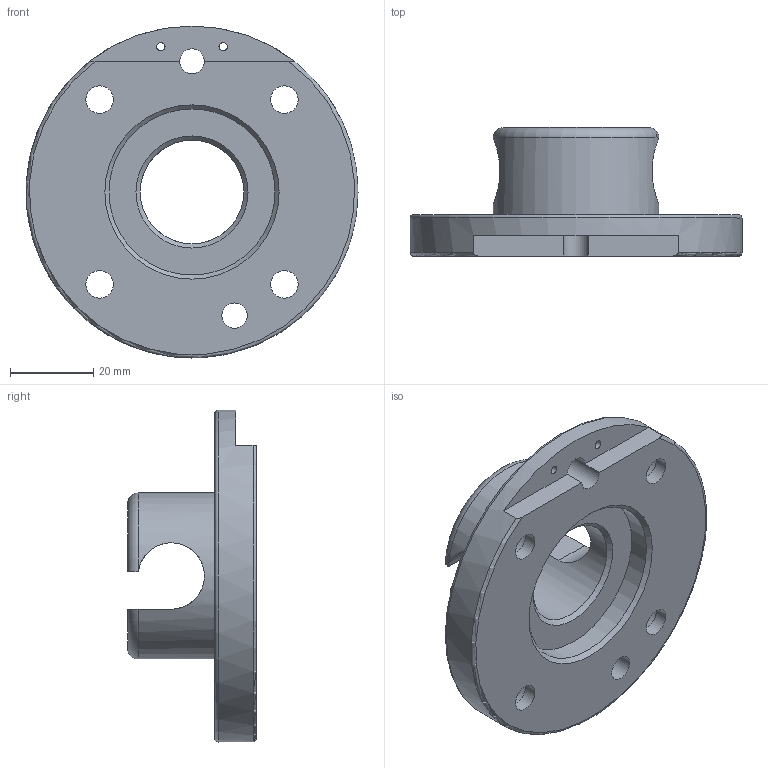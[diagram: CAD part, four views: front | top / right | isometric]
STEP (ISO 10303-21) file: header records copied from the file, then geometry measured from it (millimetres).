
FILE_DESCRIPTION(/* description */ (''),/* implementation_level */ '2;1');
FILE_NAME(/* name */ 'G-MGW080-2UEN.stp',/* time_stamp */ '2023-11-08T09:58:44+01:00',/* author */ ('ysplieth'),/* organization */ (''),/* preprocessor_version */ 'ST-DEVELOPER v20',/* originating_system */ 'Autodesk Inventor 2024',/* authorisation */ '');
FILE_SCHEMA (('AUTOMOTIVE_DESIGN { 1 0 10303 214 3 1 1 }'));
Length unit declared in the file: millimetre
Products named in the file (1): Bauteil3
Bounding box: 80 x 31 x 80 mm (x, y, z)
Volume: 47816.4 mm3; surface area: 17342.2 mm2
Topology: 1 solids, 1 shells, 42 faces, 105 edges, 69 vertices
Faces by surface type: cylinder 18, plane 16, torus 4, cone 4
Full cylindrical faces by diameter (mm): 2.013 x2, 6 x1, 6.1 x1, 6.6 x4, 11 x4, 25 x1, 40 x2, 80 x1
Entity records: 1530 total; most frequent: CARTESIAN_POINT 381, DIRECTION 222, ORIENTED_EDGE 210, EDGE_CURVE 105, AXIS2_PLACEMENT_3D 90, VERTEX_POINT 69, EDGE_LOOP 64, CIRCLE 47
